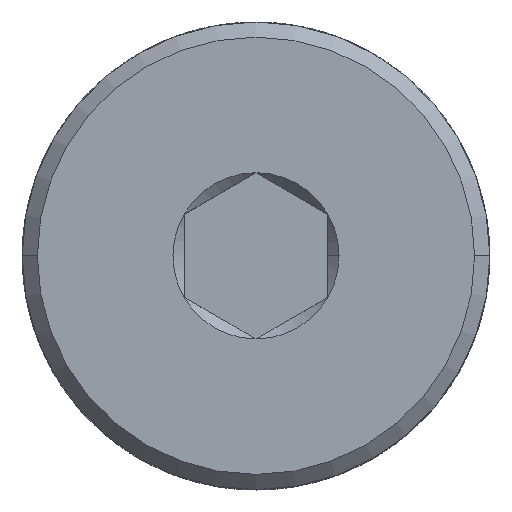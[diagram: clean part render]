
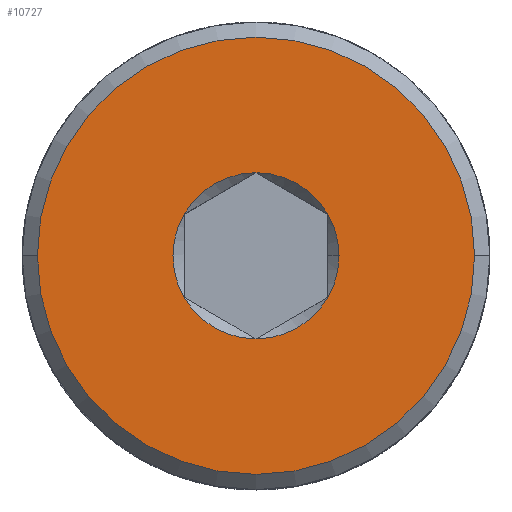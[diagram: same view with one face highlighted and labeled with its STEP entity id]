
A CAD part, top view. The second image highlights one B-rep face of the part: STEP entity #10727.
In plain terms, the highlighted planar face has unit normal (0, 0, 1).
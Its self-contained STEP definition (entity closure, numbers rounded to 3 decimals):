
#36 = DIRECTION ( 'NONE',  ( 0., 0., 1. ) ) ;
#80 = DIRECTION ( 'NONE',  ( 1., 0., 0. ) ) ;
#335 = FACE_BOUND ( 'NONE', #11966, .T. ) ;
#442 = ORIENTED_EDGE ( 'NONE', *, *, #3366, .F. ) ;
#456 = ORIENTED_EDGE ( 'NONE', *, *, #7238, .F. ) ;
#496 = CIRCLE ( 'NONE', #4633, 2.309 ) ;
#746 = ORIENTED_EDGE ( 'NONE', *, *, #1749, .F. ) ;
#795 = ORIENTED_EDGE ( 'NONE', *, *, #13645, .F. ) ;
#897 = AXIS2_PLACEMENT_3D ( 'NONE', #5039, #12747, #6179 ) ;
#1252 = EDGE_CURVE ( 'NONE', #11592, #13871, #12555, .T. ) ;
#1259 = PLANE ( 'NONE',  #8736 ) ;
#1290 = DIRECTION ( 'NONE',  ( 0., 0., 1. ) ) ;
#1498 = CIRCLE ( 'NONE', #14034, 6.077 ) ;
#1524 = CIRCLE ( 'NONE', #13760, 2.309 ) ;
#1534 = DIRECTION ( 'NONE',  ( 0., 0., 1. ) ) ;
#1749 = EDGE_CURVE ( 'NONE', #9783, #5173, #1524, .T. ) ;
#1820 = ORIENTED_EDGE ( 'NONE', *, *, #3063, .T. ) ;
#2211 = AXIS2_PLACEMENT_3D ( 'NONE', #4190, #36, #80 ) ;
#2465 = CARTESIAN_POINT ( 'NONE',  ( 0., 0., 0. ) ) ;
#2889 = CARTESIAN_POINT ( 'NONE',  ( 2.309, 0., 0. ) ) ;
#3063 = EDGE_CURVE ( 'NONE', #7999, #5423, #1498, .T. ) ;
#3128 = DIRECTION ( 'NONE',  ( 1., 0., 0. ) ) ;
#3267 = CARTESIAN_POINT ( 'NONE',  ( 0., 0., 0. ) ) ;
#3366 = EDGE_CURVE ( 'NONE', #9511, #9783, #4875, .T. ) ;
#3400 = DIRECTION ( 'NONE',  ( 0., 0., 1. ) ) ;
#4190 = CARTESIAN_POINT ( 'NONE',  ( 0., 0., 0. ) ) ;
#4232 = CARTESIAN_POINT ( 'NONE',  ( 0., 0., 0. ) ) ;
#4633 = AXIS2_PLACEMENT_3D ( 'NONE', #4232, #12137, #5431 ) ;
#4838 = AXIS2_PLACEMENT_3D ( 'NONE', #3267, #3400, #3128 ) ;
#4875 = CIRCLE ( 'NONE', #4838, 2.309 ) ;
#5039 = CARTESIAN_POINT ( 'NONE',  ( 0., 0., 0. ) ) ;
#5173 = VERTEX_POINT ( 'NONE', #6799 ) ;
#5423 = VERTEX_POINT ( 'NONE', #10738 ) ;
#5431 = DIRECTION ( 'NONE',  ( 1., 0., 0. ) ) ;
#5433 = ORIENTED_EDGE ( 'NONE', *, *, #9881, .F. ) ;
#5466 = DIRECTION ( 'NONE',  ( 0., 0., 1. ) ) ;
#5808 = DIRECTION ( 'NONE',  ( 1., 0., 0. ) ) ;
#5921 = CARTESIAN_POINT ( 'NONE',  ( 0., 0., 0. ) ) ;
#5974 = DIRECTION ( 'NONE',  ( 0., 0., 1. ) ) ;
#6021 = DIRECTION ( 'NONE',  ( 0., 0., 1. ) ) ;
#6170 = DIRECTION ( 'NONE',  ( 1., 0., 0. ) ) ;
#6179 = DIRECTION ( 'NONE',  ( 1., 0., 0. ) ) ;
#6799 = CARTESIAN_POINT ( 'NONE',  ( 2., -1.155, 0. ) ) ;
#7005 = CARTESIAN_POINT ( 'NONE',  ( 0., -2.309, 0. ) ) ;
#7084 = CIRCLE ( 'NONE', #8114, 2.309 ) ;
#7238 = EDGE_CURVE ( 'NONE', #11995, #9511, #7084, .T. ) ;
#7534 = DIRECTION ( 'NONE',  ( 0., 0., 1. ) ) ;
#7733 = CARTESIAN_POINT ( 'NONE',  ( 0., 0., 0. ) ) ;
#7927 = CIRCLE ( 'NONE', #897, 6.077 ) ;
#7999 = VERTEX_POINT ( 'NONE', #14041 ) ;
#8114 = AXIS2_PLACEMENT_3D ( 'NONE', #12163, #5466, #13069 ) ;
#8291 = CARTESIAN_POINT ( 'NONE',  ( 0., 0., 0. ) ) ;
#8539 = CARTESIAN_POINT ( 'NONE',  ( 0., 0., 0. ) ) ;
#8598 = EDGE_CURVE ( 'NONE', #5423, #7999, #7927, .T. ) ;
#8736 = AXIS2_PLACEMENT_3D ( 'NONE', #2465, #6021, #13538 ) ;
#9312 = FACE_OUTER_BOUND ( 'NONE', #13131, .T. ) ;
#9418 = ORIENTED_EDGE ( 'NONE', *, *, #8598, .T. ) ;
#9477 = DIRECTION ( 'NONE',  ( 1., 0., 0. ) ) ;
#9511 = VERTEX_POINT ( 'NONE', #12148 ) ;
#9520 = CIRCLE ( 'NONE', #13918, 2.309 ) ;
#9728 = DIRECTION ( 'NONE',  ( 1., 0., 0. ) ) ;
#9780 = CARTESIAN_POINT ( 'NONE',  ( 0., 2.309, 0. ) ) ;
#9783 = VERTEX_POINT ( 'NONE', #7005 ) ;
#9881 = EDGE_CURVE ( 'NONE', #13871, #10233, #9520, .T. ) ;
#9908 = ORIENTED_EDGE ( 'NONE', *, *, #12638, .F. ) ;
#10233 = VERTEX_POINT ( 'NONE', #9780 ) ;
#10727 = ADVANCED_FACE ( 'NONE', ( #335, #9312 ), #1259, .T. ) ;
#10738 = CARTESIAN_POINT ( 'NONE',  ( 6.077, 0., 0. ) ) ;
#11592 = VERTEX_POINT ( 'NONE', #2889 ) ;
#11685 = CIRCLE ( 'NONE', #13676, 2.309 ) ;
#11966 = EDGE_LOOP ( 'NONE', ( #5433, #13550, #9908, #746, #442, #456, #795 ) ) ;
#11995 = VERTEX_POINT ( 'NONE', #12689 ) ;
#12137 = DIRECTION ( 'NONE',  ( 0., 0., 1. ) ) ;
#12148 = CARTESIAN_POINT ( 'NONE',  ( -2., -1.155, 0. ) ) ;
#12163 = CARTESIAN_POINT ( 'NONE',  ( 0., 0., 0. ) ) ;
#12555 = CIRCLE ( 'NONE', #2211, 2.309 ) ;
#12638 = EDGE_CURVE ( 'NONE', #5173, #11592, #496, .T. ) ;
#12689 = CARTESIAN_POINT ( 'NONE',  ( -2., 1.155, 0. ) ) ;
#12747 = DIRECTION ( 'NONE',  ( 0., 0., 1. ) ) ;
#13069 = DIRECTION ( 'NONE',  ( 1., 0., 0. ) ) ;
#13131 = EDGE_LOOP ( 'NONE', ( #1820, #9418 ) ) ;
#13189 = CARTESIAN_POINT ( 'NONE',  ( 2., 1.155, 0. ) ) ;
#13538 = DIRECTION ( 'NONE',  ( 1., 0., 0. ) ) ;
#13550 = ORIENTED_EDGE ( 'NONE', *, *, #1252, .F. ) ;
#13645 = EDGE_CURVE ( 'NONE', #10233, #11995, #11685, .T. ) ;
#13676 = AXIS2_PLACEMENT_3D ( 'NONE', #8539, #1534, #9728 ) ;
#13760 = AXIS2_PLACEMENT_3D ( 'NONE', #5921, #5974, #6170 ) ;
#13871 = VERTEX_POINT ( 'NONE', #13189 ) ;
#13918 = AXIS2_PLACEMENT_3D ( 'NONE', #8291, #1290, #9477 ) ;
#14034 = AXIS2_PLACEMENT_3D ( 'NONE', #7733, #7534, #5808 ) ;
#14041 = CARTESIAN_POINT ( 'NONE',  ( -6.077, 0., 0. ) ) ;
